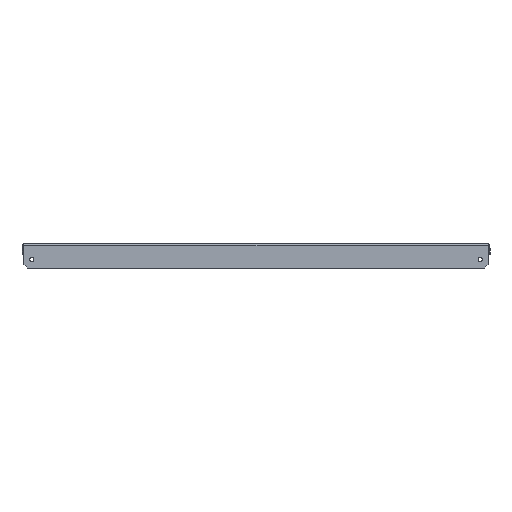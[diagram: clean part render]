
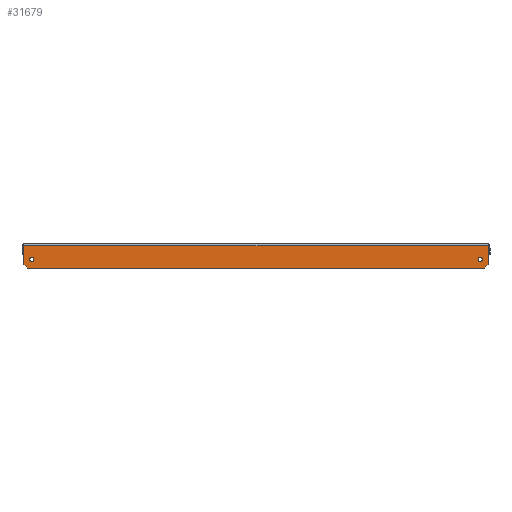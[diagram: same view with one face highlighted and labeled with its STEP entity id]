
A CAD part, left-side view. The second image highlights one B-rep face of the part: STEP entity #31679.
In plain terms, the highlighted planar face has unit normal (-1, 0, 0).
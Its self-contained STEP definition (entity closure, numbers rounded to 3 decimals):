
#47 = DIRECTION ( 'NONE',  ( 0., 0., 1. ) ) ;
#2039 = DIRECTION ( 'NONE',  ( 0., 0., 1. ) ) ;
#2369 = DIRECTION ( 'NONE',  ( 1., 0., 0. ) ) ;
#4034 = EDGE_CURVE ( 'NONE', #15029, #15029, #26866, .T. ) ;
#4246 = PLANE ( 'NONE',  #4951 ) ;
#4304 = EDGE_CURVE ( 'NONE', #15620, #5570, #28624, .T. ) ;
#4581 = CARTESIAN_POINT ( 'NONE',  ( -248.5, 161.75, -161.75 ) ) ;
#4951 = AXIS2_PLACEMENT_3D ( 'NONE', #11498, #14300, #26495 ) ;
#5008 = AXIS2_PLACEMENT_3D ( 'NONE', #17687, #2369, #47 ) ;
#5570 = VERTEX_POINT ( 'NONE', #30601 ) ;
#5799 = VECTOR ( 'NONE', #21114, 1000. ) ;
#6720 = FACE_BOUND ( 'NONE', #16002, .T. ) ;
#6870 = AXIS2_PLACEMENT_3D ( 'NONE', #29471, #21893, #6902 ) ;
#6902 = DIRECTION ( 'NONE',  ( 0., 0., 1. ) ) ;
#7559 = EDGE_LOOP ( 'NONE', ( #9307, #14268, #27593, #31017, #15693, #24732 ) ) ;
#9307 = ORIENTED_EDGE ( 'NONE', *, *, #31060, .F. ) ;
#9949 = DIRECTION ( 'NONE',  ( 0., -0.707, 0.707 ) ) ;
#10491 = CARTESIAN_POINT ( 'NONE',  ( -248.5, 0., -2.5 ) ) ;
#11039 = VECTOR ( 'NONE', #23349, 1000. ) ;
#11259 = ORIENTED_EDGE ( 'NONE', *, *, #14990, .T. ) ;
#11498 = CARTESIAN_POINT ( 'NONE',  ( -248.5, 0., 0. ) ) ;
#12130 = DIRECTION ( 'NONE',  ( 0., 0., -1. ) ) ;
#12827 = VERTEX_POINT ( 'NONE', #13209 ) ;
#13209 = CARTESIAN_POINT ( 'NONE',  ( -248.5, -292.5, -31. ) ) ;
#13292 = CARTESIAN_POINT ( 'NONE',  ( -248.5, 292.5, -31. ) ) ;
#14268 = ORIENTED_EDGE ( 'NONE', *, *, #24340, .T. ) ;
#14300 = DIRECTION ( 'NONE',  ( -1., 0., 0. ) ) ;
#14568 = LINE ( 'NONE', #25109, #25446 ) ;
#14964 = EDGE_CURVE ( 'NONE', #12827, #20541, #30521, .T. ) ;
#14990 = EDGE_CURVE ( 'NONE', #22274, #22274, #22388, .T. ) ;
#15029 = VERTEX_POINT ( 'NONE', #24916 ) ;
#15093 = LINE ( 'NONE', #24650, #30652 ) ;
#15620 = VERTEX_POINT ( 'NONE', #21422 ) ;
#15693 = ORIENTED_EDGE ( 'NONE', *, *, #29354, .F. ) ;
#16002 = EDGE_LOOP ( 'NONE', ( #11259 ) ) ;
#17085 = FACE_OUTER_BOUND ( 'NONE', #7559, .T. ) ;
#17687 = CARTESIAN_POINT ( 'NONE',  ( -248.5, -287.5, -20. ) ) ;
#18464 = EDGE_CURVE ( 'NONE', #12827, #21065, #22674, .T. ) ;
#19971 = CARTESIAN_POINT ( 'NONE',  ( -248.5, -287.5, -17.25 ) ) ;
#20319 = CARTESIAN_POINT ( 'NONE',  ( -248.5, -161.75, -161.75 ) ) ;
#20541 = VERTEX_POINT ( 'NONE', #24753 ) ;
#21065 = VERTEX_POINT ( 'NONE', #13292 ) ;
#21114 = DIRECTION ( 'NONE',  ( 0., -0.707, -0.707 ) ) ;
#21422 = CARTESIAN_POINT ( 'NONE',  ( -248.5, -297.5, -2.5 ) ) ;
#21893 = DIRECTION ( 'NONE',  ( -1., 0., 0. ) ) ;
#22022 = CARTESIAN_POINT ( 'NONE',  ( -248.5, 297.5, -31. ) ) ;
#22201 = LINE ( 'NONE', #4581, #5799 ) ;
#22274 = VERTEX_POINT ( 'NONE', #19971 ) ;
#22388 = CIRCLE ( 'NONE', #5008, 2.75 ) ;
#22674 = LINE ( 'NONE', #22022, #27191 ) ;
#23349 = DIRECTION ( 'NONE',  ( 0., 1., 0. ) ) ;
#24340 = EDGE_CURVE ( 'NONE', #26243, #21065, #22201, .T. ) ;
#24650 = CARTESIAN_POINT ( 'NONE',  ( -248.5, -297.5, -31. ) ) ;
#24732 = ORIENTED_EDGE ( 'NONE', *, *, #4304, .T. ) ;
#24753 = CARTESIAN_POINT ( 'NONE',  ( -248.5, -297.5, -26. ) ) ;
#24916 = CARTESIAN_POINT ( 'NONE',  ( -248.5, 287.5, -17.25 ) ) ;
#25109 = CARTESIAN_POINT ( 'NONE',  ( -248.5, 297.5, -1.5 ) ) ;
#25446 = VECTOR ( 'NONE', #2039, 1000. ) ;
#26243 = VERTEX_POINT ( 'NONE', #30008 ) ;
#26495 = DIRECTION ( 'NONE',  ( 0., 0., 1. ) ) ;
#26866 = CIRCLE ( 'NONE', #6870, 2.75 ) ;
#27191 = VECTOR ( 'NONE', #29610, 1000. ) ;
#27593 = ORIENTED_EDGE ( 'NONE', *, *, #18464, .F. ) ;
#28179 = EDGE_LOOP ( 'NONE', ( #31855 ) ) ;
#28624 = LINE ( 'NONE', #10491, #11039 ) ;
#29354 = EDGE_CURVE ( 'NONE', #15620, #20541, #15093, .T. ) ;
#29471 = CARTESIAN_POINT ( 'NONE',  ( -248.5, 287.5, -20. ) ) ;
#29610 = DIRECTION ( 'NONE',  ( 0., 1., 0. ) ) ;
#30008 = CARTESIAN_POINT ( 'NONE',  ( -248.5, 297.5, -26. ) ) ;
#30521 = LINE ( 'NONE', #20319, #31340 ) ;
#30601 = CARTESIAN_POINT ( 'NONE',  ( -248.5, 297.5, -2.5 ) ) ;
#30652 = VECTOR ( 'NONE', #12130, 1000. ) ;
#31017 = ORIENTED_EDGE ( 'NONE', *, *, #14964, .T. ) ;
#31060 = EDGE_CURVE ( 'NONE', #26243, #5570, #14568, .T. ) ;
#31340 = VECTOR ( 'NONE', #9949, 1000. ) ;
#31679 = ADVANCED_FACE ( 'NONE', ( #6720, #32076, #17085 ), #4246, .T. ) ;
#31855 = ORIENTED_EDGE ( 'NONE', *, *, #4034, .F. ) ;
#32076 = FACE_BOUND ( 'NONE', #28179, .T. ) ;
